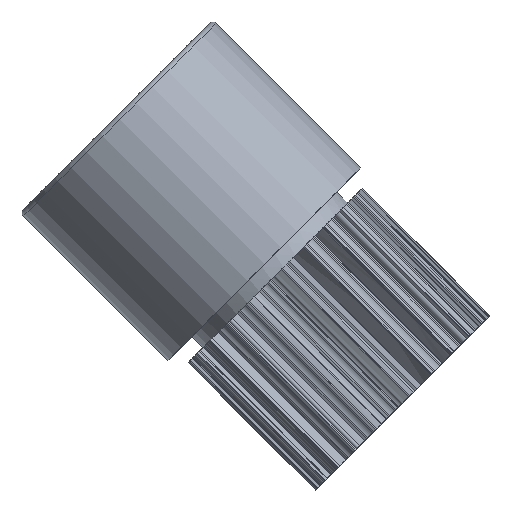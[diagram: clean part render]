
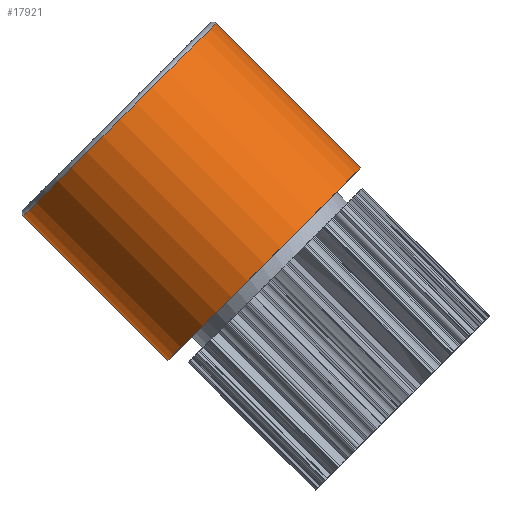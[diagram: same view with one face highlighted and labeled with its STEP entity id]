
A CAD part, left-side view. The second image highlights one B-rep face of the part: STEP entity #17921.
In plain terms, the highlighted cylindrical face has radius 60.6 mm (diameter 121.2 mm), a full revolution.
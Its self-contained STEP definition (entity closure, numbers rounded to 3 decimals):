
#574=FACE_OUTER_BOUND('',#1547,.T.);
#1547=EDGE_LOOP('',(#12038,#12039,#12040,#12041));
#2496=LINE('',#29712,#3823);
#3823=VECTOR('',#21806,60.6);
#5232=CIRCLE('',#19041,60.6);
#5233=CIRCLE('',#19042,60.6);
#6753=VERTEX_POINT('',#29709);
#6754=VERTEX_POINT('',#29711);
#8837=EDGE_CURVE('',#6753,#6753,#5232,.T.);
#8838=EDGE_CURVE('',#6753,#6754,#2496,.T.);
#8839=EDGE_CURVE('',#6754,#6754,#5233,.T.);
#12038=ORIENTED_EDGE('',*,*,#8837,.F.);
#12039=ORIENTED_EDGE('',*,*,#8838,.T.);
#12040=ORIENTED_EDGE('',*,*,#8839,.T.);
#12041=ORIENTED_EDGE('',*,*,#8838,.F.);
#17145=CYLINDRICAL_SURFACE('',#19040,60.6);
#17921=ADVANCED_FACE('',(#574),#17145,.T.);
#19040=AXIS2_PLACEMENT_3D('',#29708,#21802,#21803);
#19041=AXIS2_PLACEMENT_3D('',#29710,#21804,#21805);
#19042=AXIS2_PLACEMENT_3D('',#29713,#21807,#21808);
#21802=DIRECTION('center_axis',(0.,0.707,
0.707));
#21803=DIRECTION('ref_axis',(1.,0.,0.));
#21804=DIRECTION('center_axis',(0.,0.707,
0.707));
#21805=DIRECTION('ref_axis',(1.,0.,0.));
#21806=DIRECTION('',(0.,-0.707,-0.707));
#21807=DIRECTION('center_axis',(0.,0.707,
0.707));
#21808=DIRECTION('ref_axis',(1.,0.,0.));
#29708=CARTESIAN_POINT('Origin',(0.,51.411,1021.116));
#29709=CARTESIAN_POINT('',(-60.6,83.584,1053.29));
#29710=CARTESIAN_POINT('Origin',(0.,83.584,
1053.29));
#29711=CARTESIAN_POINT('',(-60.6,19.237,988.943));
#29712=CARTESIAN_POINT('',(-60.6,51.411,1021.116));
#29713=CARTESIAN_POINT('Origin',(0.,19.237,988.943));
